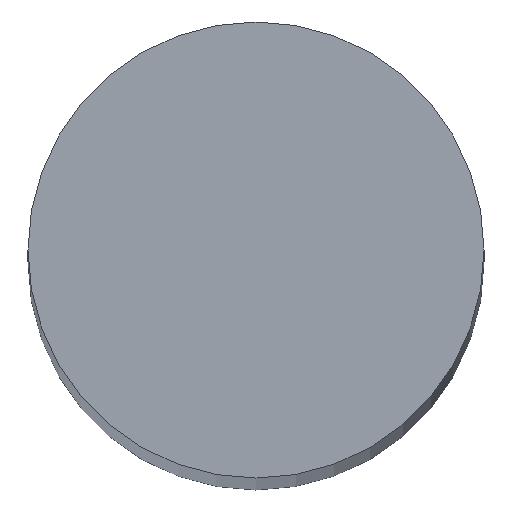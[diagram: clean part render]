
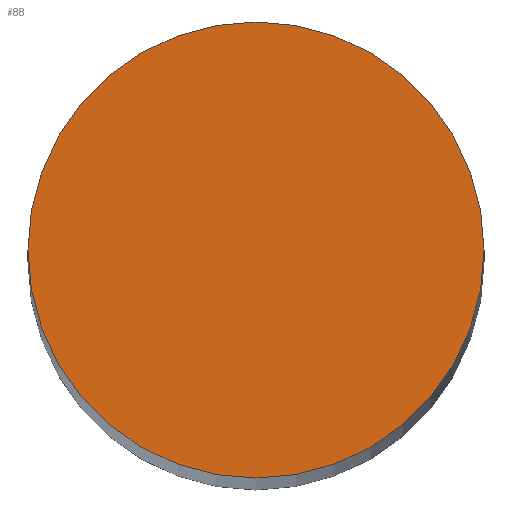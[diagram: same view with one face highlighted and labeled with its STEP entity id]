
A CAD part, top view. The second image highlights one B-rep face of the part: STEP entity #88.
In plain terms, the highlighted planar face has unit normal (0, 0, 1).
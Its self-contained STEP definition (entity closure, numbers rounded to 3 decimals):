
#12 = ORIENTED_EDGE ( 'NONE', *, *, #62, .T. ) ;
#23 = AXIS2_PLACEMENT_3D ( 'NONE', #56, #102, #164 ) ;
#29 = DIRECTION ( 'NONE',  ( 0., 0., 1. ) ) ;
#30 = DIRECTION ( 'NONE',  ( 1., 0., 0. ) ) ;
#31 = PLANE ( 'NONE',  #174 ) ;
#46 = CIRCLE ( 'NONE', #148, 2.5 ) ;
#50 = DIRECTION ( 'NONE',  ( 1., 0., 0. ) ) ;
#56 = CARTESIAN_POINT ( 'NONE',  ( 0., 0., 75. ) ) ;
#57 = EDGE_LOOP ( 'NONE', ( #163, #12 ) ) ;
#61 = CARTESIAN_POINT ( 'NONE',  ( 0., 0., 75. ) ) ;
#62 = EDGE_CURVE ( 'NONE', #117, #162, #135, .T. ) ;
#63 = CARTESIAN_POINT ( 'NONE',  ( -2.5, 0., 75. ) ) ;
#84 = FACE_OUTER_BOUND ( 'NONE', #57, .T. ) ;
#88 = ADVANCED_FACE ( 'NONE', ( #84 ), #31, .T. ) ;
#102 = DIRECTION ( 'NONE',  ( 0., 0., 1. ) ) ;
#105 = CARTESIAN_POINT ( 'NONE',  ( 2.5, 0., 75. ) ) ;
#117 = VERTEX_POINT ( 'NONE', #105 ) ;
#135 = CIRCLE ( 'NONE', #23, 2.5 ) ;
#136 = EDGE_CURVE ( 'NONE', #162, #117, #46, .T. ) ;
#142 = DIRECTION ( 'NONE',  ( 0., 0., 1. ) ) ;
#148 = AXIS2_PLACEMENT_3D ( 'NONE', #61, #29, #50 ) ;
#162 = VERTEX_POINT ( 'NONE', #63 ) ;
#163 = ORIENTED_EDGE ( 'NONE', *, *, #136, .T. ) ;
#164 = DIRECTION ( 'NONE',  ( 1., 0., 0. ) ) ;
#166 = CARTESIAN_POINT ( 'NONE',  ( 0., 0., 75. ) ) ;
#174 = AXIS2_PLACEMENT_3D ( 'NONE', #166, #142, #30 ) ;
